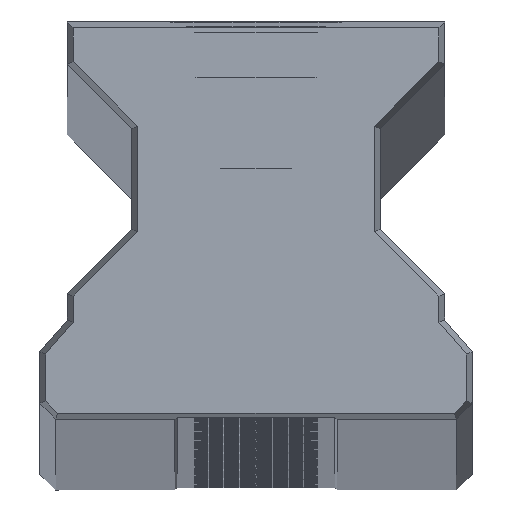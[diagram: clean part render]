
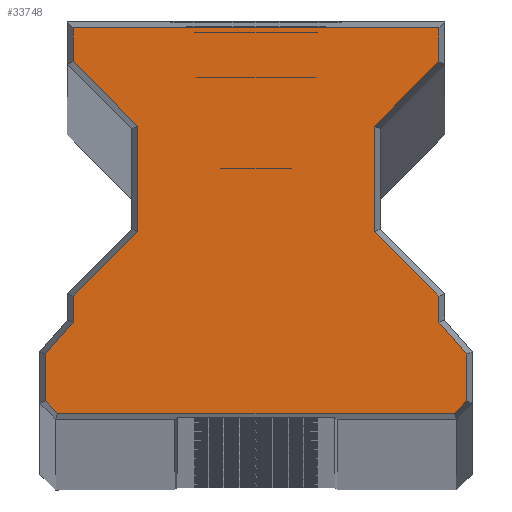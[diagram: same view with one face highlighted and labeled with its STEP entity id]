
A CAD part, top view. The second image highlights one B-rep face of the part: STEP entity #33748.
In plain terms, the highlighted planar face has unit normal (0, 0, 1).
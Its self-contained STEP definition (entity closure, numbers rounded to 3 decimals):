
#11723=DIRECTION('',(1.,0.,0.));
#11724=VECTOR('',#11723,57.696);
#11725=CARTESIAN_POINT('',(-28.848,0.85,0.));
#11726=LINE('',#11725,#11724);
#11727=DIRECTION('',(0.707,-0.707,0.));
#11728=VECTOR('',#11727,2.548);
#11729=CARTESIAN_POINT('',(-30.65,2.652,0.));
#11730=LINE('',#11729,#11728);
#11731=DIRECTION('',(0.,-1.,0.));
#11732=VECTOR('',#11731,6.832);
#11733=CARTESIAN_POINT('',(-30.65,9.484,0.));
#11734=LINE('',#11733,#11732);
#11735=DIRECTION('',(0.653,0.757,0.));
#11736=VECTOR('',#11735,6.123);
#11737=CARTESIAN_POINT('',(-30.65,9.484,0.));
#11738=LINE('',#11737,#11736);
#11739=DIRECTION('',(0.,-1.,0.));
#11740=VECTOR('',#11739,3.809);
#11741=CARTESIAN_POINT('',(-26.65,17.93,0.));
#11742=LINE('',#11741,#11740);
#11743=DIRECTION('',(-0.707,-0.707,0.));
#11744=VECTOR('',#11743,13.294);
#11745=CARTESIAN_POINT('',(-17.25,27.33,0.));
#11746=LINE('',#11745,#11744);
#11747=DIRECTION('',(0.,-1.,0.));
#11748=VECTOR('',#11747,15.34);
#11749=CARTESIAN_POINT('',(-17.25,42.67,0.));
#11750=LINE('',#11749,#11748);
#11751=DIRECTION('',(0.707,-0.707,0.));
#11752=VECTOR('',#11751,13.294);
#11753=CARTESIAN_POINT('',(-26.65,52.07,0.));
#11754=LINE('',#11753,#11752);
#11755=DIRECTION('',(0.,-1.,0.));
#11756=VECTOR('',#11755,4.93);
#11757=CARTESIAN_POINT('',(-26.65,57.,0.));
#11758=LINE('',#11757,#11756);
#11759=DIRECTION('',(-1.,0.,0.));
#11760=VECTOR('',#11759,53.3);
#11761=CARTESIAN_POINT('',(26.65,57.,0.));
#11762=LINE('',#11761,#11760);
#11763=DIRECTION('',(0.,1.,0.));
#11764=VECTOR('',#11763,4.93);
#11765=CARTESIAN_POINT('',(26.65,52.07,0.));
#11766=LINE('',#11765,#11764);
#11767=DIRECTION('',(-0.707,-0.707,0.));
#11768=VECTOR('',#11767,13.294);
#11769=CARTESIAN_POINT('',(26.65,52.07,0.));
#11770=LINE('',#11769,#11768);
#11771=DIRECTION('',(0.,1.,0.));
#11772=VECTOR('',#11771,15.34);
#11773=CARTESIAN_POINT('',(17.25,27.33,0.));
#11774=LINE('',#11773,#11772);
#11775=DIRECTION('',(-0.707,0.707,0.));
#11776=VECTOR('',#11775,13.294);
#11777=CARTESIAN_POINT('',(26.65,17.93,0.));
#11778=LINE('',#11777,#11776);
#11779=DIRECTION('',(0.,1.,0.));
#11780=VECTOR('',#11779,3.809);
#11781=CARTESIAN_POINT('',(26.65,14.12,0.));
#11782=LINE('',#11781,#11780);
#11783=DIRECTION('',(-0.653,0.757,0.));
#11784=VECTOR('',#11783,6.123);
#11785=CARTESIAN_POINT('',(30.65,9.484,0.));
#11786=LINE('',#11785,#11784);
#11787=DIRECTION('',(0.,1.,0.));
#11788=VECTOR('',#11787,6.832);
#11789=CARTESIAN_POINT('',(30.65,2.652,0.));
#11790=LINE('',#11789,#11788);
#11791=DIRECTION('',(0.707,0.707,0.));
#11792=VECTOR('',#11791,2.548);
#11793=CARTESIAN_POINT('',(28.848,0.85,0.));
#11794=LINE('',#11793,#11792);
#12647=CARTESIAN_POINT('',(-28.848,0.85,0.));
#12648=CARTESIAN_POINT('',(28.848,0.85,0.));
#12649=VERTEX_POINT('',#12647);
#12650=VERTEX_POINT('',#12648);
#12651=CARTESIAN_POINT('',(30.65,2.652,0.));
#12652=VERTEX_POINT('',#12651);
#12653=CARTESIAN_POINT('',(30.65,9.484,0.));
#12654=VERTEX_POINT('',#12653);
#12655=CARTESIAN_POINT('',(26.65,14.12,0.));
#12656=VERTEX_POINT('',#12655);
#12657=CARTESIAN_POINT('',(26.65,17.93,0.));
#12658=VERTEX_POINT('',#12657);
#12659=CARTESIAN_POINT('',(17.25,27.33,0.));
#12660=VERTEX_POINT('',#12659);
#12661=CARTESIAN_POINT('',(17.25,42.67,0.));
#12662=VERTEX_POINT('',#12661);
#12663=CARTESIAN_POINT('',(26.65,52.07,0.));
#12664=VERTEX_POINT('',#12663);
#12665=CARTESIAN_POINT('',(26.65,57.,0.));
#12666=VERTEX_POINT('',#12665);
#12667=CARTESIAN_POINT('',(-26.65,57.,0.));
#12668=VERTEX_POINT('',#12667);
#12669=CARTESIAN_POINT('',(-26.65,52.07,0.));
#12670=VERTEX_POINT('',#12669);
#12671=CARTESIAN_POINT('',(-17.25,42.67,0.));
#12672=VERTEX_POINT('',#12671);
#12673=CARTESIAN_POINT('',(-17.25,27.33,0.));
#12674=VERTEX_POINT('',#12673);
#12675=CARTESIAN_POINT('',(-26.65,17.93,0.));
#12676=VERTEX_POINT('',#12675);
#12677=CARTESIAN_POINT('',(-26.65,14.12,0.));
#12678=VERTEX_POINT('',#12677);
#12679=CARTESIAN_POINT('',(-30.65,9.484,0.));
#12680=VERTEX_POINT('',#12679);
#14771=CARTESIAN_POINT('',(-30.65,2.652,0.));
#14772=VERTEX_POINT('',#14771);
#33706=CARTESIAN_POINT('',(0.,0.,0.));
#33707=DIRECTION('',(0.,0.,1.));
#33708=DIRECTION('',(1.,0.,0.));
#33709=AXIS2_PLACEMENT_3D('',#33706,#33707,#33708);
#33710=PLANE('',#33709);
#33712=ORIENTED_EDGE('',*,*,#33711,.F.);
#33714=ORIENTED_EDGE('',*,*,#33713,.F.);
#33716=ORIENTED_EDGE('',*,*,#33715,.F.);
#33718=ORIENTED_EDGE('',*,*,#33717,.T.);
#33720=ORIENTED_EDGE('',*,*,#33719,.F.);
#33722=ORIENTED_EDGE('',*,*,#33721,.F.);
#33724=ORIENTED_EDGE('',*,*,#33723,.F.);
#33725=ORIENTED_EDGE('',*,*,#33696,.F.);
#33727=ORIENTED_EDGE('',*,*,#33726,.F.);
#33729=ORIENTED_EDGE('',*,*,#33728,.F.);
#33731=ORIENTED_EDGE('',*,*,#33730,.F.);
#33733=ORIENTED_EDGE('',*,*,#33732,.T.);
#33735=ORIENTED_EDGE('',*,*,#33734,.F.);
#33737=ORIENTED_EDGE('',*,*,#33736,.F.);
#33739=ORIENTED_EDGE('',*,*,#33738,.F.);
#33741=ORIENTED_EDGE('',*,*,#33740,.F.);
#33743=ORIENTED_EDGE('',*,*,#33742,.F.);
#33745=ORIENTED_EDGE('',*,*,#33744,.F.);
#33746=EDGE_LOOP('',(#33712,#33714,#33716,#33718,#33720,#33722,#33724,#33725,
#33727,#33729,#33731,#33733,#33735,#33737,#33739,#33741,#33743,#33745));
#33747=FACE_OUTER_BOUND('',#33746,.F.);
#33696=EDGE_CURVE('',#12670,#12672,#11754,.T.);
#33711=EDGE_CURVE('',#12649,#12650,#11726,.T.);
#33713=EDGE_CURVE('',#14772,#12649,#11730,.T.);
#33715=EDGE_CURVE('',#12680,#14772,#11734,.T.);
#33717=EDGE_CURVE('',#12680,#12678,#11738,.T.);
#33719=EDGE_CURVE('',#12676,#12678,#11742,.T.);
#33721=EDGE_CURVE('',#12674,#12676,#11746,.T.);
#33723=EDGE_CURVE('',#12672,#12674,#11750,.T.);
#33726=EDGE_CURVE('',#12668,#12670,#11758,.T.);
#33728=EDGE_CURVE('',#12666,#12668,#11762,.T.);
#33730=EDGE_CURVE('',#12664,#12666,#11766,.T.);
#33732=EDGE_CURVE('',#12664,#12662,#11770,.T.);
#33734=EDGE_CURVE('',#12660,#12662,#11774,.T.);
#33736=EDGE_CURVE('',#12658,#12660,#11778,.T.);
#33738=EDGE_CURVE('',#12656,#12658,#11782,.T.);
#33740=EDGE_CURVE('',#12654,#12656,#11786,.T.);
#33742=EDGE_CURVE('',#12652,#12654,#11790,.T.);
#33744=EDGE_CURVE('',#12650,#12652,#11794,.T.);
#33748=ADVANCED_FACE('',(#33747),#33710,.T.);
